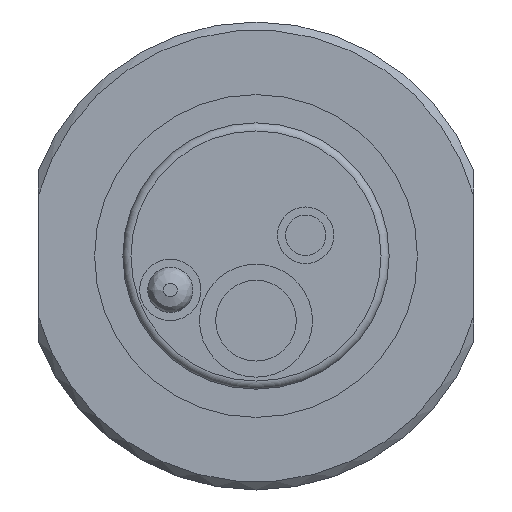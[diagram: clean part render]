
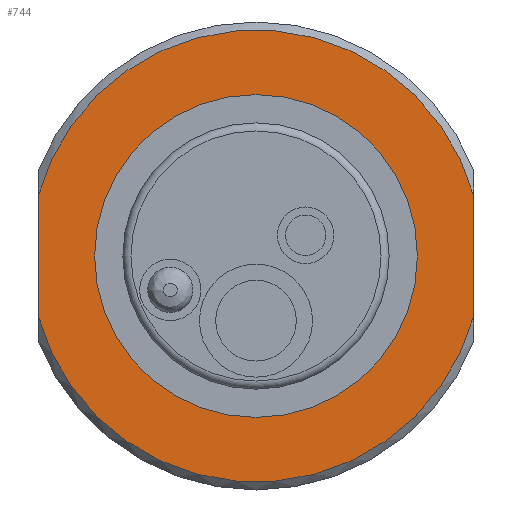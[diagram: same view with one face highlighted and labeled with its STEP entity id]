
A CAD part, front view. The second image highlights one B-rep face of the part: STEP entity #744.
In plain terms, the highlighted planar face has unit normal (0, -1, 0).
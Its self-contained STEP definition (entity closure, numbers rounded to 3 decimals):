
#400=CARTESIAN_POINT('',(-13.5,26.,-3.708));
#401=VERTEX_POINT('',#400);
#417=CARTESIAN_POINT('',(-13.5,26.,3.708));
#418=VERTEX_POINT('',#417);
#419=CARTESIAN_POINT('',(-13.5,26.,3.708));
#420=DIRECTION('',(0.0,0.0,-1.0));
#421=VECTOR('',#420,7.416);
#422=LINE('',#419,#421);
#423=EDGE_CURVE('',#418,#401,#422,.T.);
#500=CARTESIAN_POINT('',(13.5,26.,3.708));
#501=VERTEX_POINT('',#500);
#517=CARTESIAN_POINT('',(13.5,26.,-3.708));
#518=VERTEX_POINT('',#517);
#519=CARTESIAN_POINT('',(13.5,26.,-3.708));
#520=DIRECTION('',(0.0,0.0,1.0));
#521=VECTOR('',#520,7.416);
#522=LINE('',#519,#521);
#523=EDGE_CURVE('',#518,#501,#522,.T.);
#672=CARTESIAN_POINT('',(0.0,26.,0.0));
#673=DIRECTION('',(0.0,1.0,0.0));
#674=DIRECTION('',(-1.0,0.0,0.0));
#675=AXIS2_PLACEMENT_3D('',#672,#673,#674);
#676=CIRCLE('',#675,14.);
#677=EDGE_CURVE('',#418,#501,#676,.T.);
#709=CARTESIAN_POINT('',(-10.,26.,0.0));
#710=VERTEX_POINT('',#709);
#711=CARTESIAN_POINT('',(0.0,26.,0.0));
#712=DIRECTION('',(0.0,1.0,0.0));
#713=DIRECTION('',(-1.0,0.0,0.0));
#714=AXIS2_PLACEMENT_3D('',#711,#712,#713);
#715=CIRCLE('',#714,10.);
#716=EDGE_CURVE('',#710,#710,#715,.T.);
#724=CARTESIAN_POINT('',(-12.,26.,0.0));
#725=DIRECTION('',(0.0,-1.0,0.0));
#726=DIRECTION('',(0.0,0.0,-1.0));
#727=AXIS2_PLACEMENT_3D('',#724,#725,#726);
#728=PLANE('',#727);
#729=ORIENTED_EDGE('',*,*,#423,.T.);
#730=CARTESIAN_POINT('',(0.0,26.,0.0));
#731=DIRECTION('',(0.0,1.0,0.0));
#732=DIRECTION('',(-1.0,0.0,0.0));
#733=AXIS2_PLACEMENT_3D('',#730,#731,#732);
#734=CIRCLE('',#733,14.);
#735=EDGE_CURVE('',#518,#401,#734,.T.);
#736=ORIENTED_EDGE('',*,*,#735,.F.);
#737=ORIENTED_EDGE('',*,*,#523,.T.);
#738=ORIENTED_EDGE('',*,*,#677,.F.);
#739=EDGE_LOOP('',(#729,#736,#737,#738));
#740=FACE_OUTER_BOUND('',#739,.T.);
#741=ORIENTED_EDGE('',*,*,#716,.T.);
#742=EDGE_LOOP('',(#741));
#743=FACE_BOUND('',#742,.T.);
#744=ADVANCED_FACE('',(#740,#743),#728,.T.);
